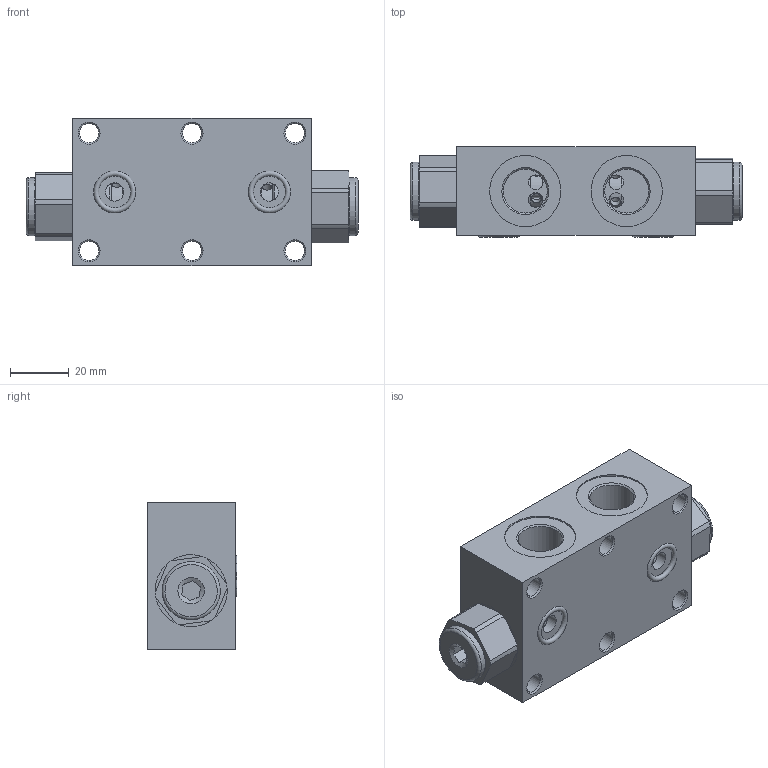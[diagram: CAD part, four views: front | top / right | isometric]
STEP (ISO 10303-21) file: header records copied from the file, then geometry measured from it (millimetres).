
FILE_DESCRIPTION(/* description */ ('Unknown'),/* implementation_level */ '2;1');
FILE_NAME(/* name */ 'VBDEFL38',/* time_stamp */ '2024-12-05T10:44:05+01:00',/* author */ ('Unknown'),/* organization */ ('Unknown'),/* preprocessor_version */ 'ST-DEVELOPER v19.4',/* originating_system */ 'Solid Edge',/* authorisation */ 'Unknown');
FILE_SCHEMA (('AUTOMOTIVE_DESIGN {1 0 10303 214 3 1 1}'));
Length unit declared in the file: millimetre
Products named in the file (1): VBDEFL38
Bounding box: 112.9 x 30.59 x 50 mm (x, y, z)
Volume: 111927.7 mm3; surface area: 34152.9 mm2
Topology: 1 solids, 1 shells, 254 faces, 629 edges, 413 vertices
Faces by surface type: cylinder 110, plane 92, cone 38, torus 8, bspline 6
Full cylindrical faces by diameter (mm): 3.4 x16, 3.5 x8, 4.45 x2, 5 x6, 6.25 x2, 6.3 x2, 6.5 x6, 6.7 x2, 8.2 x2, 8.3 x2, 9 x2, 11.7 x4, 12.376 x2, 13 x2, 13.98 x2, 14.95 x4, 16 x4, 17 x8, 19.05 x2, 19.8 x2, 21 x4, 24.2 x2
Entity records: 10067 total; most frequent: CARTESIAN_POINT 3272, DIRECTION 1022, ORIENTED_EDGE 780, FACE_BOUND 508, EDGE_LOOP 506, AXIS2_PLACEMENT_3D 457, EDGE_CURVE 390, VERTEX_POINT 324
